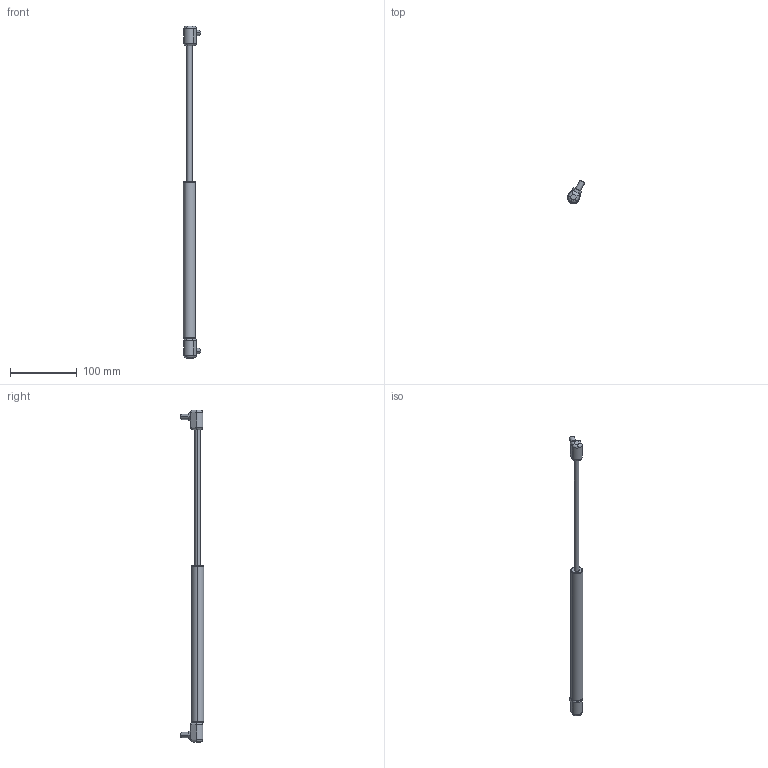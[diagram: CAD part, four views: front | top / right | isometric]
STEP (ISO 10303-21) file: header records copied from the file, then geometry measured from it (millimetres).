
FILE_DESCRIPTION (( 'STEP AP214' ), '1' );
FILE_NAME ('2.8010 8_18 200mm 250N.STEP', '2024-06-28T08:16:45', ( '' ), ( '' ), 'SwSTEP 2.0', 'SolidWorks 2024', '' );
FILE_SCHEMA (( 'AUTOMOTIVE_DESIGN' ));
Length unit declared in the file: millimetre
Products named in the file (4): 2.8010 8_18 200mm 250N; 8_18 200mm Mäntä; 8_18 200mm Runko; Päätykiinnike M6
Assembly tree (4 placements, depth 2):
  2.8010 8_18 200mm 250N
    8_18 200mm Runko
    8_18 200mm Mäntä
    Päätykiinnike M6  x2
Bounding box: 25.76 x 34.67 x 495.6 mm (x, y, z)
Volume: 76424.7 mm3; surface area: 29521.9 mm2
Topology: 4 solids, 4 shells, 113 faces, 250 edges, 140 vertices
Faces by surface type: cylinder 48, plane 35, torus 12, cone 10, bspline 8
Entity records: 2327 total; most frequent: CARTESIAN_POINT 584, DIRECTION 314, ORIENTED_EDGE 280, EDGE_CURVE 140, AXIS2_PLACEMENT_3D 125, VERTEX_POINT 83, EDGE_LOOP 73, ADVANCED_FACE 68
